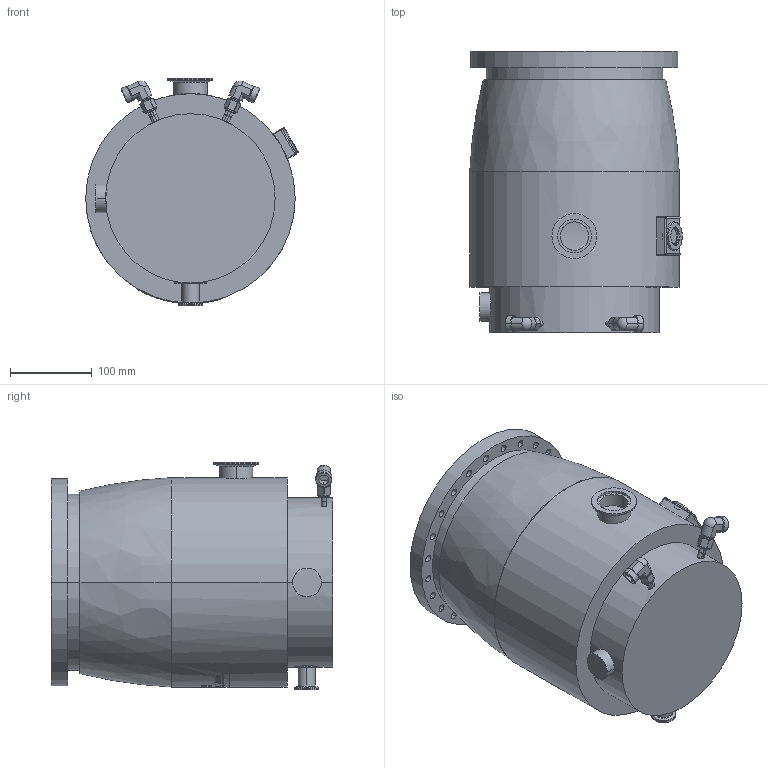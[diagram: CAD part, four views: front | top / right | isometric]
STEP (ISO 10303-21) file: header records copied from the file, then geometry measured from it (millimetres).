
FILE_DESCRIPTION((''),'2;1');
FILE_NAME('ENV-ATH1600M-P2522100','2008-07-25T',('NVARENNES'),(''),'PRO/ENGINEER BY PARAMETRIC TECHNOLOGY CORPORATION, 2008010','PRO/ENGINEER BY PARAMETRIC TECHNOLOGY CORPORATION, 2008010','');
FILE_SCHEMA(('CONFIG_CONTROL_DESIGN'));
Length unit declared in the file: millimetre
Products named in the file (1): ENV-ATH1600M-P2522100
Bounding box: 259.79 x 343.72 x 278.5 mm (x, y, z)
Volume: 15898298.8 mm3; surface area: 424305.6 mm2
Topology: 1 solids, 3 shells, 609 faces, 1549 edges, 989 vertices
Faces by surface type: cylinder 197, plane 182, bspline 164, torus 34, cone 30, sphere 2
Entity records: 25689 total; most frequent: CARTESIAN_POINT 11392, ORIENTED_EDGE 3094, DIRECTION 2561, EDGE_CURVE 1547, VERTEX_POINT 989, AXIS2_PLACEMENT_3D 962, EDGE_LOOP 722, VECTOR 637
